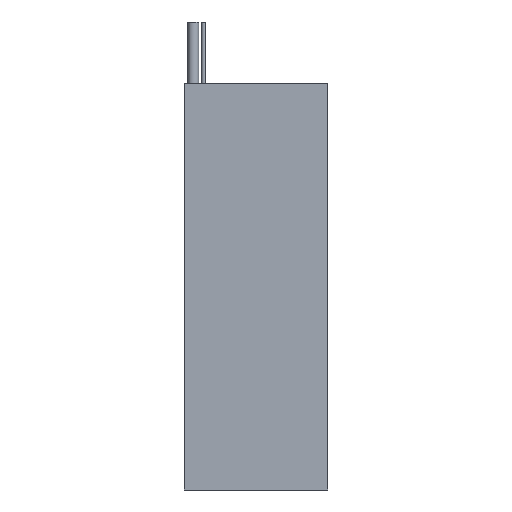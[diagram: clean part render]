
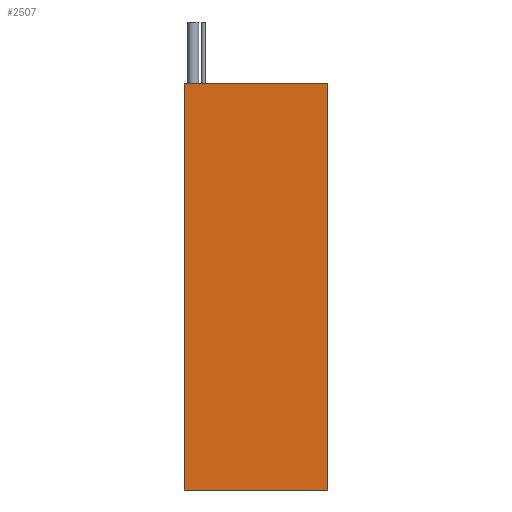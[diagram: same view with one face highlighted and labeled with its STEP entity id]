
A CAD part, front view. The second image highlights one B-rep face of the part: STEP entity #2507.
In plain terms, the highlighted planar face has unit normal (0, -1, 0).
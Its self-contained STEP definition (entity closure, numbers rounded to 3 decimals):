
#4 = PLANE ( 'NONE',  #3487 ) ;
#11 = CARTESIAN_POINT ( 'NONE',  ( -453.861, 525.584, -328. ) ) ;
#26 = DIRECTION ( 'NONE',  ( 0., 0., -1. ) ) ;
#378 = CARTESIAN_POINT ( 'NONE',  ( -337.861, 525.584, -328. ) ) ;
#599 = VERTEX_POINT ( 'NONE', #1112 ) ;
#609 = EDGE_LOOP ( 'NONE', ( #1756, #3061, #3538, #2246 ) ) ;
#677 = VECTOR ( 'NONE', #2542, 1000. ) ;
#716 = VECTOR ( 'NONE', #3537, 1000. ) ;
#800 = CARTESIAN_POINT ( 'NONE',  ( -453.861, 525.584, 0. ) ) ;
#911 = VECTOR ( 'NONE', #2824, 1000. ) ;
#1045 = EDGE_CURVE ( 'NONE', #2601, #599, #3118, .T. ) ;
#1112 = CARTESIAN_POINT ( 'NONE',  ( -337.861, 525.584, -328. ) ) ;
#1131 = CARTESIAN_POINT ( 'NONE',  ( -453.861, 525.584, -328. ) ) ;
#1374 = CARTESIAN_POINT ( 'NONE',  ( -337.861, 525.584, 0. ) ) ;
#1594 = CARTESIAN_POINT ( 'NONE',  ( -453.861, 525.584, -328. ) ) ;
#1704 = DIRECTION ( 'NONE',  ( 0., -1., 0. ) ) ;
#1756 = ORIENTED_EDGE ( 'NONE', *, *, #2332, .F. ) ;
#2073 = LINE ( 'NONE', #378, #3532 ) ;
#2149 = EDGE_CURVE ( 'NONE', #2601, #2264, #3492, .T. ) ;
#2246 = ORIENTED_EDGE ( 'NONE', *, *, #3260, .T. ) ;
#2264 = VERTEX_POINT ( 'NONE', #2658 ) ;
#2332 = EDGE_CURVE ( 'NONE', #2264, #3427, #3536, .T. ) ;
#2507 = ADVANCED_FACE ( 'NONE', ( #2955 ), #4, .T. ) ;
#2542 = DIRECTION ( 'NONE',  ( 0., 0., 1. ) ) ;
#2601 = VERTEX_POINT ( 'NONE', #3431 ) ;
#2658 = CARTESIAN_POINT ( 'NONE',  ( -453.861, 525.584, 0. ) ) ;
#2769 = DIRECTION ( 'NONE',  ( 0., 0., 1. ) ) ;
#2824 = DIRECTION ( 'NONE',  ( 1., 0., 0. ) ) ;
#2955 = FACE_OUTER_BOUND ( 'NONE', #609, .T. ) ;
#3061 = ORIENTED_EDGE ( 'NONE', *, *, #2149, .F. ) ;
#3118 = LINE ( 'NONE', #11, #911 ) ;
#3260 = EDGE_CURVE ( 'NONE', #599, #3427, #2073, .T. ) ;
#3427 = VERTEX_POINT ( 'NONE', #1374 ) ;
#3431 = CARTESIAN_POINT ( 'NONE',  ( -453.861, 525.584, -328. ) ) ;
#3487 = AXIS2_PLACEMENT_3D ( 'NONE', #1131, #1704, #26 ) ;
#3492 = LINE ( 'NONE', #1594, #677 ) ;
#3532 = VECTOR ( 'NONE', #2769, 1000. ) ;
#3536 = LINE ( 'NONE', #800, #716 ) ;
#3537 = DIRECTION ( 'NONE',  ( 1., 0., 0. ) ) ;
#3538 = ORIENTED_EDGE ( 'NONE', *, *, #1045, .T. ) ;
